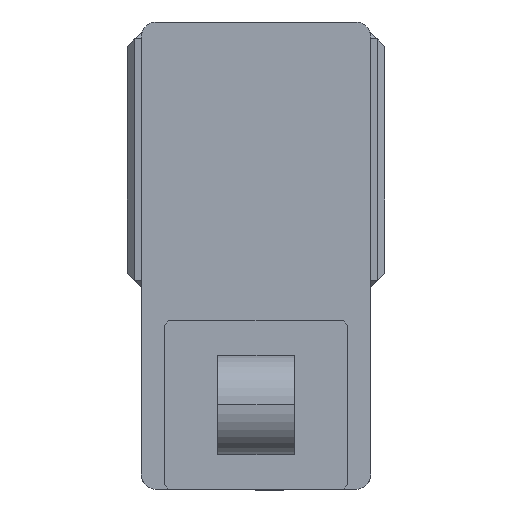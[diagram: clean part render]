
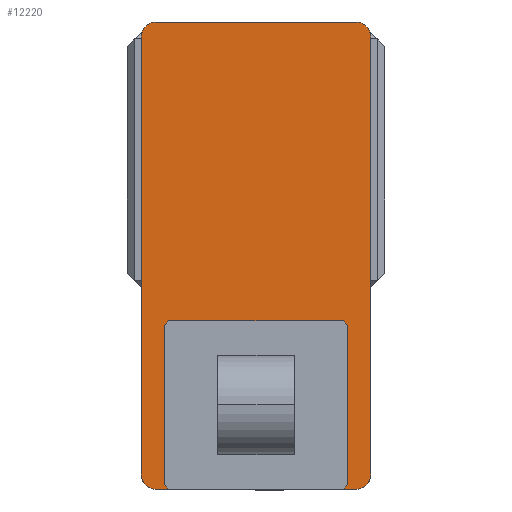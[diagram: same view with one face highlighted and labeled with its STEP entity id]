
A CAD part, left-side view. The second image highlights one B-rep face of the part: STEP entity #12220.
In plain terms, the highlighted planar face has unit normal (-1, 0, 0) as drawn and (0, 0, 1) by its records, which use the part's own axes.
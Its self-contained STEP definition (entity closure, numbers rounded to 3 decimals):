
#76 = EDGE_CURVE ( 'NONE', #19368, #20094, #16665, .T. ) ;
#312 = CARTESIAN_POINT ( 'NONE',  ( -75., -152.5, 105. ) ) ;
#1159 = CARTESIAN_POINT ( 'NONE',  ( 75., 152.5, 105. ) ) ;
#1211 = VERTEX_POINT ( 'NONE', #8998 ) ;
#1326 = CARTESIAN_POINT ( 'NONE',  ( 75., 142.5, 105. ) ) ;
#1365 = CARTESIAN_POINT ( 'NONE',  ( -75., -142.5, 105. ) ) ;
#1666 = CARTESIAN_POINT ( 'NONE',  ( 0., 0., 105. ) ) ;
#1861 = CARTESIAN_POINT ( 'NONE',  ( -65., 142.5, 105. ) ) ;
#2073 = EDGE_CURVE ( 'NONE', #12905, #16185, #20068, .T. ) ;
#2760 = DIRECTION ( 'NONE',  ( 0., 1., 0. ) ) ;
#2991 = ORIENTED_EDGE ( 'NONE', *, *, #4720, .T. ) ;
#3064 = AXIS2_PLACEMENT_3D ( 'NONE', #4351, #15473, #5939 ) ;
#3230 = VECTOR ( 'NONE', #10352, 1000. ) ;
#3285 = DIRECTION ( 'NONE',  ( 1., 0., 0. ) ) ;
#3457 = DIRECTION ( 'NONE',  ( 1., 0., 0. ) ) ;
#3954 = ORIENTED_EDGE ( 'NONE', *, *, #2073, .T. ) ;
#4206 = CARTESIAN_POINT ( 'NONE',  ( 65., -152.5, 105. ) ) ;
#4295 = ORIENTED_EDGE ( 'NONE', *, *, #4357, .T. ) ;
#4325 = EDGE_CURVE ( 'NONE', #13894, #13680, #20544, .T. ) ;
#4351 = CARTESIAN_POINT ( 'NONE',  ( 65., -142.5, 105. ) ) ;
#4357 = EDGE_CURVE ( 'NONE', #13680, #19368, #4675, .T. ) ;
#4675 = LINE ( 'NONE', #1159, #7954 ) ;
#4720 = EDGE_CURVE ( 'NONE', #12903, #12905, #12906, .T. ) ;
#5671 = ORIENTED_EDGE ( 'NONE', *, *, #6047, .T. ) ;
#5794 = CARTESIAN_POINT ( 'NONE',  ( -75., 152.5, 105. ) ) ;
#5939 = DIRECTION ( 'NONE',  ( 1., 0., 0. ) ) ;
#6047 = EDGE_CURVE ( 'NONE', #1211, #13894, #12047, .T. ) ;
#6114 = CARTESIAN_POINT ( 'NONE',  ( -65., 152.5, 105. ) ) ;
#6971 = DIRECTION ( 'NONE',  ( 0., 0., 1. ) ) ;
#7043 = VECTOR ( 'NONE', #15315, 1000. ) ;
#7288 = EDGE_CURVE ( 'NONE', #20094, #12903, #19666, .T. ) ;
#7297 = AXIS2_PLACEMENT_3D ( 'NONE', #16460, #6971, #18048 ) ;
#7761 = CARTESIAN_POINT ( 'NONE',  ( -75., 142.5, 105. ) ) ;
#7850 = VECTOR ( 'NONE', #14529, 1000. ) ;
#7954 = VECTOR ( 'NONE', #2760, 1000. ) ;
#8998 = CARTESIAN_POINT ( 'NONE',  ( -65., -152.5, 105. ) ) ;
#9619 = PLANE ( 'NONE',  #17130 ) ;
#10352 = DIRECTION ( 'NONE',  ( 0., -1., 0. ) ) ;
#12047 = LINE ( 'NONE', #312, #7850 ) ;
#12220 = ADVANCED_FACE ( 'NONE', ( #16605 ), #9619, .T. ) ;
#12683 = AXIS2_PLACEMENT_3D ( 'NONE', #18787, #19210, #17782 ) ;
#12814 = DIRECTION ( 'NONE',  ( 0., 0., 1. ) ) ;
#12903 = VERTEX_POINT ( 'NONE', #6114 ) ;
#12905 = VERTEX_POINT ( 'NONE', #7761 ) ;
#12906 = CIRCLE ( 'NONE', #16874, 10. ) ;
#12994 = DIRECTION ( 'NONE',  ( 0., 0., 1. ) ) ;
#13680 = VERTEX_POINT ( 'NONE', #14496 ) ;
#13894 = VERTEX_POINT ( 'NONE', #4206 ) ;
#14496 = CARTESIAN_POINT ( 'NONE',  ( 75., -142.5, 105. ) ) ;
#14529 = DIRECTION ( 'NONE',  ( 1., 0., 0. ) ) ;
#15315 = DIRECTION ( 'NONE',  ( -1., 0., 0. ) ) ;
#15473 = DIRECTION ( 'NONE',  ( 0., 0., 1. ) ) ;
#15573 = CIRCLE ( 'NONE', #7297, 10. ) ;
#15758 = CARTESIAN_POINT ( 'NONE',  ( 65., 152.5, 105. ) ) ;
#16185 = VERTEX_POINT ( 'NONE', #1365 ) ;
#16460 = CARTESIAN_POINT ( 'NONE',  ( -65., -142.5, 105. ) ) ;
#16605 = FACE_OUTER_BOUND ( 'NONE', #16858, .T. ) ;
#16638 = ORIENTED_EDGE ( 'NONE', *, *, #4325, .T. ) ;
#16665 = CIRCLE ( 'NONE', #12683, 10. ) ;
#16858 = EDGE_LOOP ( 'NONE', ( #5671, #16638, #4295, #19624, #18343, #2991, #3954, #19564 ) ) ;
#16874 = AXIS2_PLACEMENT_3D ( 'NONE', #1861, #12994, #3457 ) ;
#17130 = AXIS2_PLACEMENT_3D ( 'NONE', #1666, #12814, #3285 ) ;
#17782 = DIRECTION ( 'NONE',  ( 1., 0., 0. ) ) ;
#18048 = DIRECTION ( 'NONE',  ( 1., 0., 0. ) ) ;
#18343 = ORIENTED_EDGE ( 'NONE', *, *, #7288, .T. ) ;
#18787 = CARTESIAN_POINT ( 'NONE',  ( 65., 142.5, 105. ) ) ;
#18925 = EDGE_CURVE ( 'NONE', #16185, #1211, #15573, .T. ) ;
#19210 = DIRECTION ( 'NONE',  ( 0., 0., 1. ) ) ;
#19368 = VERTEX_POINT ( 'NONE', #1326 ) ;
#19564 = ORIENTED_EDGE ( 'NONE', *, *, #18925, .T. ) ;
#19624 = ORIENTED_EDGE ( 'NONE', *, *, #76, .T. ) ;
#19666 = LINE ( 'NONE', #5794, #7043 ) ;
#19813 = CARTESIAN_POINT ( 'NONE',  ( -75., 152.5, 105. ) ) ;
#20068 = LINE ( 'NONE', #19813, #3230 ) ;
#20094 = VERTEX_POINT ( 'NONE', #15758 ) ;
#20544 = CIRCLE ( 'NONE', #3064, 10. ) ;
